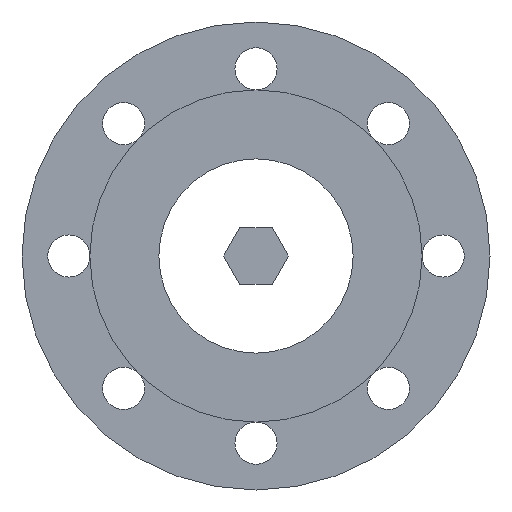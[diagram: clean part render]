
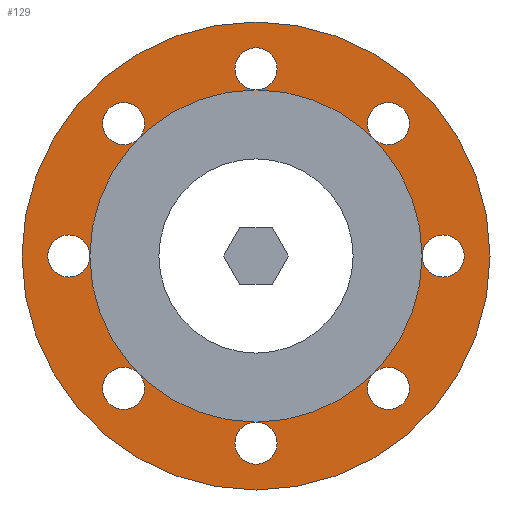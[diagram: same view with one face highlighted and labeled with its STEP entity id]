
A CAD part, front view. The second image highlights one B-rep face of the part: STEP entity #129.
In plain terms, the highlighted planar face has unit normal (0, -1, 0).
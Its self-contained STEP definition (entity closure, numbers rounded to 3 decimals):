
#129 = ADVANCED_FACE( '', ( #238, #239, #240, #241, #242, #243, #244, #245, #246, #247 ), #248, .T. );
#238 = FACE_OUTER_BOUND( '', #364, .T. );
#239 = FACE_BOUND( '', #365, .T. );
#240 = FACE_BOUND( '', #366, .T. );
#241 = FACE_BOUND( '', #367, .T. );
#242 = FACE_BOUND( '', #368, .T. );
#243 = FACE_BOUND( '', #369, .T. );
#244 = FACE_BOUND( '', #370, .T. );
#245 = FACE_BOUND( '', #371, .T. );
#246 = FACE_BOUND( '', #372, .T. );
#247 = FACE_BOUND( '', #373, .T. );
#248 = PLANE( '', #374 );
#364 = EDGE_LOOP( '', ( #502 ) );
#365 = EDGE_LOOP( '', ( #503 ) );
#366 = EDGE_LOOP( '', ( #504 ) );
#367 = EDGE_LOOP( '', ( #505 ) );
#368 = EDGE_LOOP( '', ( #506 ) );
#369 = EDGE_LOOP( '', ( #507 ) );
#370 = EDGE_LOOP( '', ( #508 ) );
#371 = EDGE_LOOP( '', ( #509 ) );
#372 = EDGE_LOOP( '', ( #510 ) );
#373 = EDGE_LOOP( '', ( #511 ) );
#374 = AXIS2_PLACEMENT_3D( '', #512, #513, #514 );
#502 = ORIENTED_EDGE( '', *, *, #668, .T. );
#503 = ORIENTED_EDGE( '', *, *, #669, .T. );
#504 = ORIENTED_EDGE( '', *, *, #662, .F. );
#505 = ORIENTED_EDGE( '', *, *, #640, .F. );
#506 = ORIENTED_EDGE( '', *, *, #665, .F. );
#507 = ORIENTED_EDGE( '', *, *, #670, .F. );
#508 = ORIENTED_EDGE( '', *, *, #646, .F. );
#509 = ORIENTED_EDGE( '', *, *, #671, .F. );
#510 = ORIENTED_EDGE( '', *, *, #659, .F. );
#511 = ORIENTED_EDGE( '', *, *, #643, .F. );
#512 = CARTESIAN_POINT( '', ( 48., 0., 0. ) );
#513 = DIRECTION( '', ( 0., -1., 0. ) );
#514 = DIRECTION( '', ( 0., 0., -1. ) );
#640 = EDGE_CURVE( '', #712, #712, #713, .T. );
#643 = EDGE_CURVE( '', #717, #717, #718, .T. );
#646 = EDGE_CURVE( '', #722, #722, #723, .T. );
#659 = EDGE_CURVE( '', #745, #745, #746, .T. );
#662 = EDGE_CURVE( '', #750, #750, #751, .T. );
#665 = EDGE_CURVE( '', #755, #755, #756, .T. );
#668 = EDGE_CURVE( '', #760, #760, #761, .T. );
#669 = EDGE_CURVE( '', #762, #762, #763, .F. );
#670 = EDGE_CURVE( '', #764, #764, #765, .T. );
#671 = EDGE_CURVE( '', #766, #766, #767, .T. );
#712 = VERTEX_POINT( '', #820 );
#713 = CIRCLE( '', #821, 9. );
#717 = VERTEX_POINT( '', #825 );
#718 = CIRCLE( '', #826, 48. );
#722 = VERTEX_POINT( '', #830 );
#723 = CIRCLE( '', #831, 9. );
#745 = VERTEX_POINT( '', #861 );
#746 = CIRCLE( '', #862, 9. );
#750 = VERTEX_POINT( '', #866 );
#751 = CIRCLE( '', #867, 9. );
#755 = VERTEX_POINT( '', #871 );
#756 = CIRCLE( '', #872, 9. );
#760 = VERTEX_POINT( '', #876 );
#761 = CIRCLE( '', #877, 100. );
#762 = VERTEX_POINT( '', #878 );
#763 = CIRCLE( '', #879, 9. );
#764 = VERTEX_POINT( '', #880 );
#765 = CIRCLE( '', #881, 9. );
#766 = VERTEX_POINT( '', #882 );
#767 = CIRCLE( '', #883, 9. );
#820 = CARTESIAN_POINT( '', ( -56.569, 0., -65.569 ) );
#821 = AXIS2_PLACEMENT_3D( '', #946, #947, #948 );
#825 = CARTESIAN_POINT( '', ( 0., 0., -48. ) );
#826 = AXIS2_PLACEMENT_3D( '', #952, #953, #954 );
#830 = CARTESIAN_POINT( '', ( 0., 0., 71. ) );
#831 = AXIS2_PLACEMENT_3D( '', #958, #959, #960 );
#861 = CARTESIAN_POINT( '', ( 56.569, 0., -65.569 ) );
#862 = AXIS2_PLACEMENT_3D( '', #972, #973, #974 );
#866 = CARTESIAN_POINT( '', ( 0., 0., -89. ) );
#867 = AXIS2_PLACEMENT_3D( '', #978, #979, #980 );
#871 = CARTESIAN_POINT( '', ( -80., 0., -9. ) );
#872 = AXIS2_PLACEMENT_3D( '', #984, #985, #986 );
#876 = CARTESIAN_POINT( '', ( 0., 0., -100. ) );
#877 = AXIS2_PLACEMENT_3D( '', #990, #991, #992 );
#878 = CARTESIAN_POINT( '', ( 80., 0., -9. ) );
#879 = AXIS2_PLACEMENT_3D( '', #993, #994, #995 );
#880 = CARTESIAN_POINT( '', ( -56.569, 0., 47.569 ) );
#881 = AXIS2_PLACEMENT_3D( '', #996, #997, #998 );
#882 = CARTESIAN_POINT( '', ( 56.569, 0., 47.569 ) );
#883 = AXIS2_PLACEMENT_3D( '', #999, #1000, #1001 );
#946 = CARTESIAN_POINT( '', ( -56.569, 0., -56.569 ) );
#947 = DIRECTION( '', ( 0., -1., 0. ) );
#948 = DIRECTION( '', ( 0., 0., -1. ) );
#952 = CARTESIAN_POINT( '', ( 0., 0., 0. ) );
#953 = DIRECTION( '', ( 0., -1., 0. ) );
#954 = DIRECTION( '', ( 0., 0., -1. ) );
#958 = CARTESIAN_POINT( '', ( 0., 0., 80. ) );
#959 = DIRECTION( '', ( 0., -1., 0. ) );
#960 = DIRECTION( '', ( 0., 0., -1. ) );
#972 = CARTESIAN_POINT( '', ( 56.569, 0., -56.569 ) );
#973 = DIRECTION( '', ( 0., -1., 0. ) );
#974 = DIRECTION( '', ( 0., 0., -1. ) );
#978 = CARTESIAN_POINT( '', ( 0., 0., -80. ) );
#979 = DIRECTION( '', ( 0., -1., 0. ) );
#980 = DIRECTION( '', ( 0., 0., -1. ) );
#984 = CARTESIAN_POINT( '', ( -80., 0., 0. ) );
#985 = DIRECTION( '', ( 0., -1., 0. ) );
#986 = DIRECTION( '', ( 0., 0., -1. ) );
#990 = CARTESIAN_POINT( '', ( 0., 0., 0. ) );
#991 = DIRECTION( '', ( 0., -1., 0. ) );
#992 = DIRECTION( '', ( 0., 0., -1. ) );
#993 = CARTESIAN_POINT( '', ( 80., 0., 0. ) );
#994 = DIRECTION( '', ( 0., -1., 0. ) );
#995 = DIRECTION( '', ( 0., 0., -1. ) );
#996 = CARTESIAN_POINT( '', ( -56.569, 0., 56.569 ) );
#997 = DIRECTION( '', ( 0., -1., 0. ) );
#998 = DIRECTION( '', ( 0., 0., -1. ) );
#999 = CARTESIAN_POINT( '', ( 56.569, 0., 56.569 ) );
#1000 = DIRECTION( '', ( 0., -1., 0. ) );
#1001 = DIRECTION( '', ( 0., 0., -1. ) );
